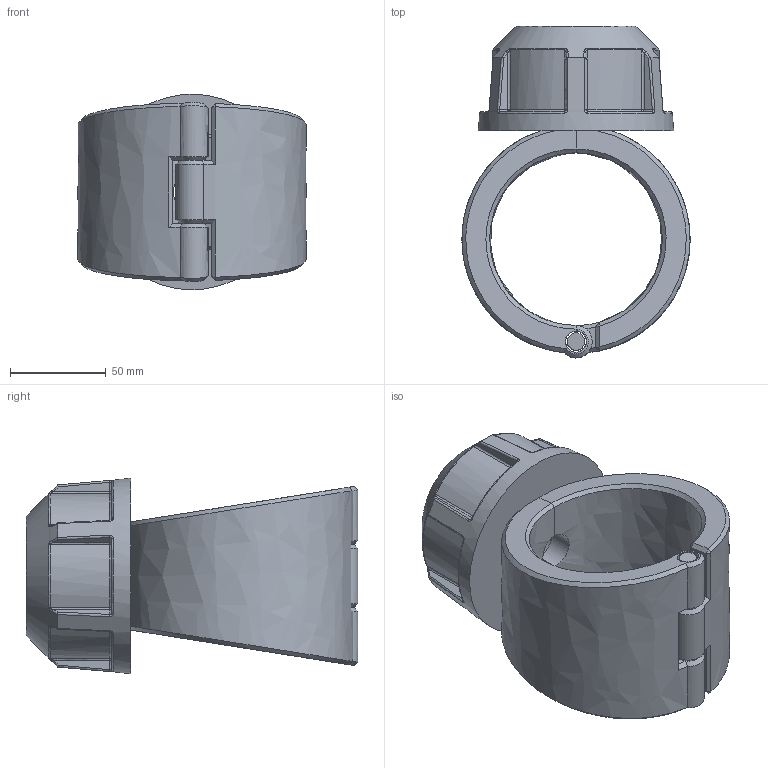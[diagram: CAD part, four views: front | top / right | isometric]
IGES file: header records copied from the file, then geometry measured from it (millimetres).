
Global section: file name: 163000090013; native system: Autodesk Inventor 2019; preprocessor: unknown; author: comp2; date: 20220203.114722; units: millimetre
Bounding box: 118.99 x 173 x 101.97 mm (x, y, z)
Volume: 621869.4 mm3; surface area: 101054.6 mm2
Topology: 4 solids, 4 shells, 203 faces, 486 edges, 293 vertices
Faces by surface type: bspline 203
